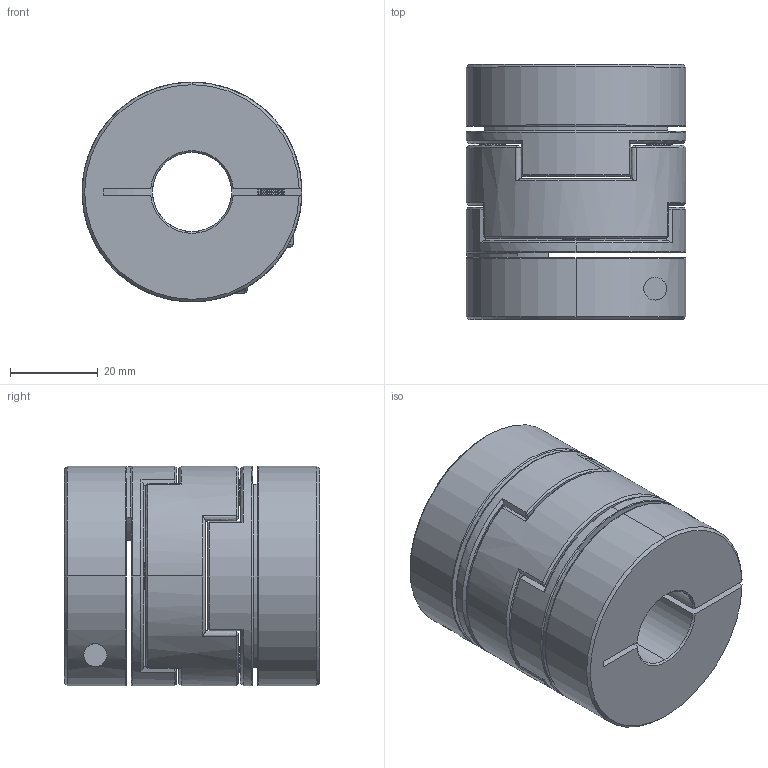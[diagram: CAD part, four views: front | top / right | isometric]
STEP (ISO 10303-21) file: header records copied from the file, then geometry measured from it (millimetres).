
FILE_DESCRIPTION (( 'STEP AP203' ), '1' );
FILE_NAME ('LZ-B-D50L58-18-24.STEP', '2021-10-29T08:14:15', ( '' ), ( '' ), 'SwSTEP 2.0', 'SolidWorks 2018', '' );
FILE_SCHEMA (( 'CONFIG_CONTROL_DESIGN' ));
Length unit declared in the file: millimetre
Products named in the file (1): LZ-B-D50L58-18-24
Bounding box: 50 x 58 x 50 mm (x, y, z)
Volume: 85850.5 mm3; surface area: 29565.6 mm2
Topology: 1 solids, 27 shells, 561 faces, 1370 edges, 814 vertices
Faces by surface type: cone 252, cylinder 160, plane 91, bspline 54, torus 4
Entity records: 17482 total; most frequent: CARTESIAN_POINT 4365, DIRECTION 2786, ORIENTED_EDGE 2732, EDGE_CURVE 1366, AXIS2_PLACEMENT_3D 1124, VERTEX_POINT 814, CIRCLE 616, EDGE_LOOP 594
